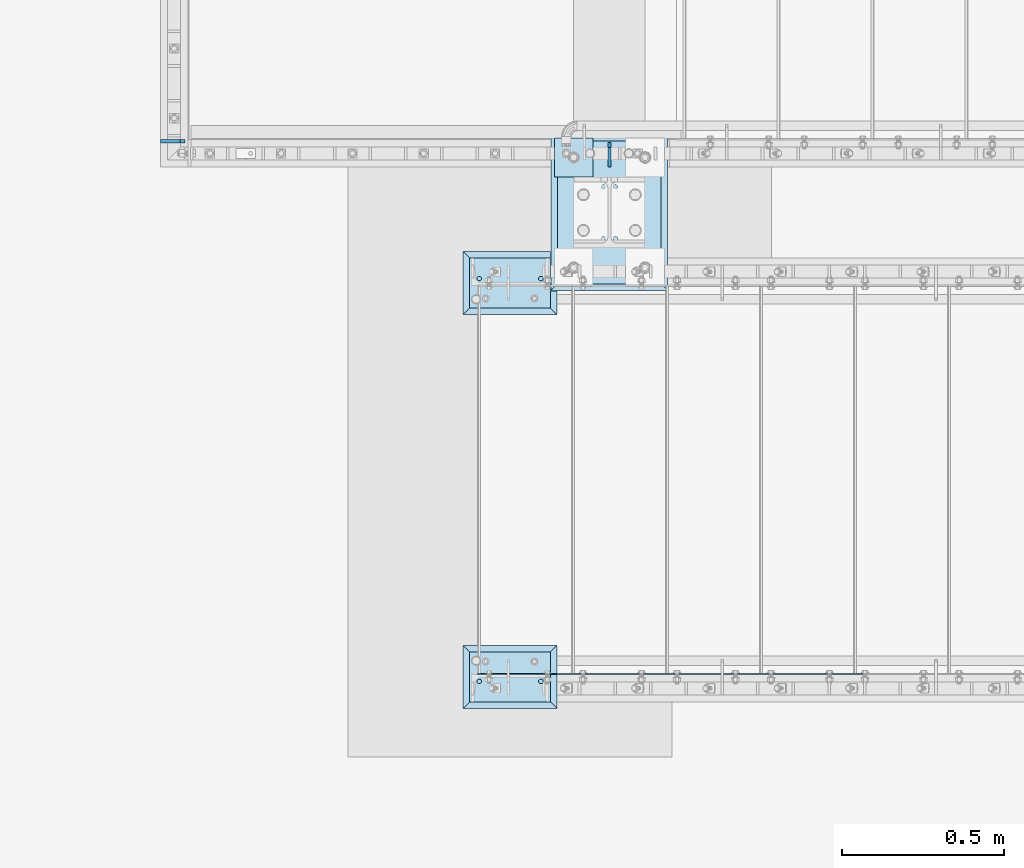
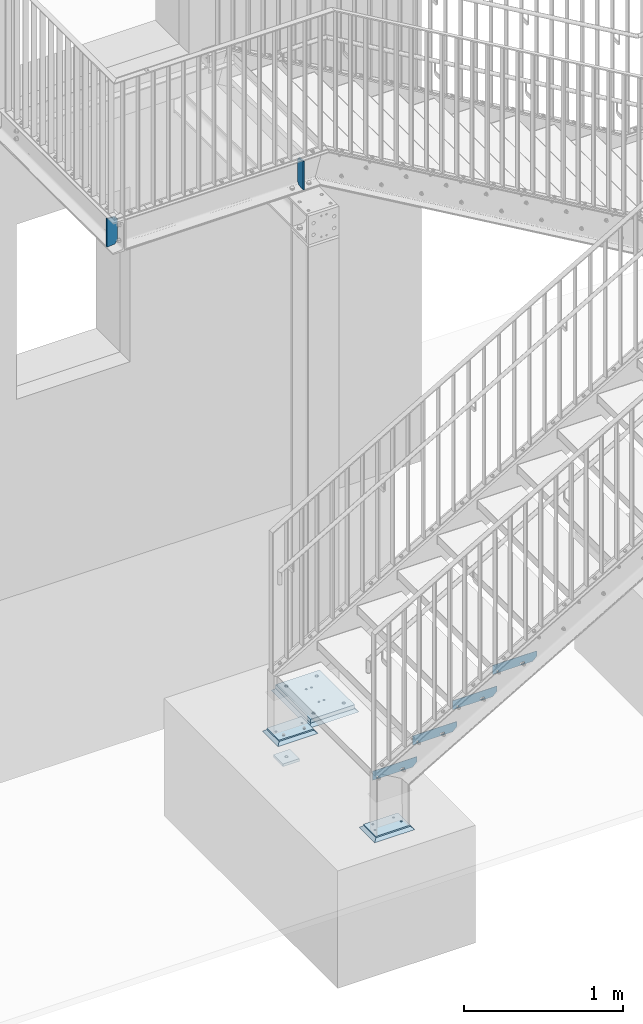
# One storey, part 19 of 145: 13 plates, 54 openings.
"""IFC2X3 building model written with IfcOpenShell, lengths in millimetres."""

from ifc_helpers import new_model, entity, si_unit, converted_unit, point, frame, frame_2d, origin, origin_with_axes, origin_2d_with_axis, place, context, project, spatial, polyline, circle_curve, line_curve, trimmed, segment, composite_curve, circle, outline, extrude, material, layer, layer_set, element, save


model = new_model("IFC2X3")

# Units and contexts
model_context = context("Model", 3, precision=1e-09, world=origin_with_axes())
ifc_project = project(units=[si_unit("LENGTHUNIT", "METRE", prefix="MILLI"), si_unit("AREAUNIT", "SQUARE_METRE"), si_unit("VOLUMEUNIT", "CUBIC_METRE"), converted_unit("PLANEANGLEUNIT", "DEGREE", entity("IfcPlaneAngleMeasure", 0.01745329), si_unit("PLANEANGLEUNIT", "RADIAN"), dimensions=[0, 0, 0, 0, 0, 0, 0])], contexts=[model_context])

# Site, building, storey
site_placement = place(None, origin_with_axes())
site = spatial("IfcSite", under=ifc_project, at=site_placement, Name="BZ1 Grund- und Mittelschule 85716 Unterschlei?heim", CompositionType="ELEMENT")
building_placement = place(site_placement, origin_with_axes())
building = spatial("IfcBuilding", under=site, at=building_placement, Name="Struktur 1", CompositionType="ELEMENT")
storey_placement = place(building_placement, origin_with_axes())
storey = spatial("IfcBuildingStorey", under=building, at=storey_placement, Name="Default Storey", CompositionType="ELEMENT", Elevation=0.0)

# Plate, openings
ifc_material = material(Name="S235JR")
ifc_layer_1 = layer(ifc_material, 20.0)
ifc_layer_set_1 = layer_set([ifc_layer_1], Name="S235JR")
plate_1_placement = place(None, frame((16764.545399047, -3127.502, -760.0), z_axis=(0.0, 0.0, 1.0), x_axis=(-1.0, 0.0, 0.0)))
plate_1 = element("IfcPlate", 1, at=plate_1_placement, inside=storey, material=ifc_layer_set_1, Name="-", ObjectType="-", context=model_context, shape_type="SweptSolid", body=[
    extrude(outline(polyline([(-145.0, -97.5), (145.0, -97.5), (145.0, 97.5), (-145.0, 97.5), (-145.0, -97.5)])), origin_with_axes(), (0.0, 0.0, 1.0), 20.0),
])
opening_1_placement = place(plate_1_placement, frame((-145.0, -97.501, 20.0), z_axis=(0.0, 1.0, 0.0), x_axis=(1.0, 0.0, 0.0)))
element("IfcOpeningElement", 2, at=opening_1_placement, cuts=plate_1, ObjectType="Opening", context=model_context, shape_type="SweptSolid", body=[
    extrude(outline(polyline([(0.0, 0.0), (20.0, 0.0), (0.0, 20.0), (0.0, 0.0)])), origin(), (0.0, 0.0, 1.0), 195.022),
])
opening_2_placement = place(plate_1_placement, frame((145.001, -97.5, 20.0), z_axis=(-1.0, 0.0, 0.0), x_axis=(0.0, 1.0, 0.0)))
element("IfcOpeningElement", 3, at=opening_2_placement, cuts=plate_1, ObjectType="Opening", context=model_context, shape_type="SweptSolid", body=[
    extrude(outline(polyline([(0.0, 0.0), (20.0, 0.0), (0.0, 20.0), (0.0, 0.0)])), origin(), (0.0, 0.0, 1.0), 290.022),
])
opening_3_placement = place(plate_1_placement, frame((145.0, 97.501, 20.0), z_axis=(0.0, -1.0, 0.0), x_axis=(-1.0, 0.0, 0.0)))
element("IfcOpeningElement", 4, at=opening_3_placement, cuts=plate_1, ObjectType="Opening", context=model_context, shape_type="SweptSolid", body=[
    extrude(outline(polyline([(0.0, 0.0), (20.0, 0.0), (0.0, 20.0), (0.0, 0.0)])), origin(), (0.0, 0.0, 1.0), 195.022),
])
opening_4_placement = place(plate_1_placement, frame((-145.001, 97.5, 20.0), z_axis=(1.0, 0.0, 0.0), x_axis=(0.0, -1.0, 0.0)))
element("IfcOpeningElement", 5, at=opening_4_placement, cuts=plate_1, ObjectType="Opening", context=model_context, shape_type="SweptSolid", body=[
    extrude(outline(polyline([(0.0, 0.0), (20.0, 0.0), (0.0, 20.0), (0.0, 0.0)])), origin(), (0.0, 0.0, 1.0), 290.022),
])
opening_5_placement = place(plate_1_placement, frame((140.0, 27.5, -0.5), z_axis=(0.0, 0.0, 1.0), x_axis=(1.0, 0.0, 0.0)))
element("IfcOpeningElement", 6, at=opening_5_placement, cuts=plate_1, ObjectType="Opening", context=model_context, shape_type="SweptSolid", body=[
    extrude(circle(Radius=7.001, at=frame_2d((-65.0, -75.0), x_axis=(1.0, 0.0))), origin(), (0.0, 0.0, 1.0), 21.0),
])
opening_6_placement = place(plate_1_placement, frame((-80.0, 27.5, -0.5), z_axis=(0.0, 0.0, 1.0), x_axis=(1.0, 0.0, 0.0)))
element("IfcOpeningElement", 7, at=opening_6_placement, cuts=plate_1, ObjectType="Opening", context=model_context, shape_type="SweptSolid", body=[
    extrude(circle(Radius=7.001, at=frame_2d((5.0, -75.0), x_axis=(1.0, 0.0))), origin(), (0.0, 0.0, 1.0), 21.0),
])

plate_2_placement = place(None, frame((16764.545399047, -1912.502, -760.0), z_axis=(0.0, 0.0, -1.0), x_axis=(-1.0, 0.0, 0.0)))
plate_2 = element("IfcPlate", 8, at=plate_2_placement, inside=storey, material=ifc_layer_set_1, Name="-", ObjectType="-", context=model_context, shape_type="SweptSolid", body=[
    extrude(outline(polyline([(-145.0, -97.5), (145.0, -97.5), (145.0, 97.5), (-145.0, 97.5), (-145.0, -97.5)])), origin_with_axes(), (0.0, 0.0, -1.0), 20.0),
])
opening_7_placement = place(plate_2_placement, frame((-145.0, 97.501, -20.0), z_axis=(0.0, -1.0, 0.0), x_axis=(1.0, 0.0, 0.0)))
element("IfcOpeningElement", 9, at=opening_7_placement, cuts=plate_2, ObjectType="Opening", context=model_context, shape_type="SweptSolid", body=[
    extrude(outline(polyline([(0.0, 0.0), (20.0, 0.0), (0.0, 20.0), (0.0, 0.0)])), origin(), (0.0, 0.0, 1.0), 195.022),
])
opening_8_placement = place(plate_2_placement, frame((-145.001, -97.5, -20.0), z_axis=(1.0, 0.0, 0.0), x_axis=(0.0, 1.0, 0.0)))
element("IfcOpeningElement", 10, at=opening_8_placement, cuts=plate_2, ObjectType="Opening", context=model_context, shape_type="SweptSolid", body=[
    extrude(outline(polyline([(0.0, 0.0), (20.0, 0.0), (0.0, 20.0), (0.0, 0.0)])), origin(), (0.0, 0.0, 1.0), 290.022),
])
opening_9_placement = place(plate_2_placement, frame((145.0, -97.501, -20.0), z_axis=(0.0, 1.0, 0.0), x_axis=(-1.0, 0.0, 0.0)))
element("IfcOpeningElement", 11, at=opening_9_placement, cuts=plate_2, ObjectType="Opening", context=model_context, shape_type="SweptSolid", body=[
    extrude(outline(polyline([(0.0, 0.0), (20.0, 0.0), (0.0, 20.0), (0.0, 0.0)])), origin(), (0.0, 0.0, 1.0), 195.022),
])
opening_10_placement = place(plate_2_placement, frame((145.001, 97.5, -20.0), z_axis=(-1.0, 0.0, 0.0), x_axis=(0.0, -1.0, 0.0)))
element("IfcOpeningElement", 12, at=opening_10_placement, cuts=plate_2, ObjectType="Opening", context=model_context, shape_type="SweptSolid", body=[
    extrude(outline(polyline([(0.0, 0.0), (20.0, 0.0), (0.0, 20.0), (0.0, 0.0)])), origin(), (0.0, 0.0, 1.0), 290.022),
])
opening_11_placement = place(plate_2_placement, frame((67.999, -47.5, 0.5), z_axis=(0.0, 0.0, 1.0), x_axis=(1.0, 0.0, 0.0)))
element("IfcOpeningElement", 13, at=opening_11_placement, cuts=plate_2, ObjectType="Opening", context=model_context, shape_type="SweptSolid", body=[
    extrude(circle(Radius=7.001, at=frame_2d((7.001, 0.0), x_axis=(1.0, 0.0))), origin(), (0.0, 0.0, -1.0), 21.0),
])
opening_12_placement = place(plate_2_placement, frame((-82.001, -47.5, 0.5), z_axis=(0.0, 0.0, 1.0), x_axis=(1.0, 0.0, 0.0)))
element("IfcOpeningElement", 14, at=opening_12_placement, cuts=plate_2, ObjectType="Opening", context=model_context, shape_type="SweptSolid", body=[
    extrude(circle(Radius=7.001, at=frame_2d((7.001, 0.0), x_axis=(1.0, 0.0))), origin(), (0.0, 0.0, -1.0), 21.0),
])
opening_13_placement = place(plate_2_placement, frame((-164.441948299, -24.501, -20.1), z_axis=(0.0, 0.0, -1.0), x_axis=(0.0, 1.0, 0.0)))
element("IfcOpeningElement", 15, at=opening_13_placement, cuts=plate_2, ObjectType="Opening", context=model_context, shape_type="SweptSolid", body=[
    extrude(outline(polyline([(0.0, 0.0), (173.338814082, 0.0), (173.338814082, 39.442948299), (0.0, 39.442948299), (0.0, 0.0)])), origin(), (0.0, 0.0, -1.0), 20.2),
])

ifc_layer_2 = layer(ifc_material, 10.0)
ifc_layer_set_2 = layer_set([ifc_layer_2], Name="S235JR")
plate_3_placement = place(None, frame((17075.84472732, -1554.502, 3071.144734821), z_axis=(1.0, 0.0, 0.0), x_axis=(0.0, 0.996815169, 0.079746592)))
plate_3 = element("IfcPlate", 16, at=plate_3_placement, inside=storey, material=ifc_layer_set_2, Name="Stiffener#1", ObjectType="Stiffener#1", context=model_context, shape_type="SweptSolid", body=[
    extrude(outline(polyline([(0.0, 0.0), (75.239625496, 0.0), (91.644322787, 205.05517107), (17.361672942, 217.017159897), (0.0, 0.0)])), origin_with_axes(), (0.0, 0.0, -1.0), 10.0),
])
opening_14_placement = place(plate_3_placement, frame((91.644322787, 205.05517107, 0.01), z_axis=(0.0, 0.0, 1.0), x_axis=(-0.987280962, 0.158985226, 0.0)))
element("IfcOpeningElement", 17, at=opening_14_placement, cuts=plate_3, ObjectType="Opening", context=model_context, shape_type="SweptSolid", body=[
    extrude(outline(composite_curve([segment(trimmed(line_curve((0.0, 0.0), (1.0, 0.0), 15.0), [point((0.0, 0.0))], [point((15.0, 0.0))], True, "CARTESIAN"), True, "CONTINUOUS"), segment(trimmed(circle_curve(origin_2d_with_axis(), 15.0), [point((15.0, 0.0))], [point((-1.196198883, 14.952227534))], True, "CARTESIAN"), True, "CONTINUOUS"), segment(trimmed(line_curve((-1.196198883, 14.952227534), (0.079746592, -0.996815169), 15.0), [point((-1.196198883, 14.952227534))], [point((0.0, 0.0))], True, "CARTESIAN"), True, "CONTINUOUS")], self_intersect=False)), origin(), (0.0, 0.0, -1.0), 10.02),
])
opening_15_placement = place(plate_3_placement, frame((75.239625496, 0.0, 0.01), z_axis=(0.0, 0.0, 1.0), x_axis=(0.079746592, 0.996815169, 0.0)))
element("IfcOpeningElement", 18, at=opening_15_placement, cuts=plate_3, ObjectType="Opening", context=model_context, shape_type="SweptSolid", body=[
    extrude(outline(composite_curve([segment(trimmed(line_curve((0.0, 0.0), (1.0, 0.0), 15.0), [point((0.0, 0.0))], [point((15.0, 0.0))], True, "CARTESIAN"), True, "CONTINUOUS"), segment(trimmed(circle_curve(origin_2d_with_axis(), 15.0), [point((15.0, 0.0))], [point((-1.196198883, 14.952227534))], True, "CARTESIAN"), True, "CONTINUOUS"), segment(trimmed(line_curve((-1.196198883, 14.952227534), (0.079746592, -0.996815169), 15.0), [point((-1.196198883, 14.952227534))], [point((0.0, 0.0))], True, "CARTESIAN"), True, "CONTINUOUS")], self_intersect=False)), origin(), (0.0, 0.0, -1.0), 10.02),
])

ifc_layer_3 = layer(ifc_material, 30.0)
ifc_layer_set_3 = layer_set([ifc_layer_3], Name="S235JR")
plate_4_placement = place(None, frame((17070.84472732, -1695.002, -740.0), z_axis=(0.0, 0.0, 1.0), x_axis=(-1.0, 0.0, 0.0)))
plate_4 = element("IfcPlate", 19, at=plate_4_placement, inside=storey, material=ifc_layer_set_3, Name="-", ObjectType="-", context=model_context, shape_type="SweptSolid", body=[
    extrude(outline(polyline([(-160.0, -220.0), (160.0, -220.0), (160.0, 220.0), (-160.0, 220.0), (-160.0, -220.0)])), origin_with_axes(), (0.0, 0.0, 1.0), 30.0),
])
opening_16_placement = place(plate_4_placement, frame((0.0, 0.0, -0.5), z_axis=(0.0, 0.0, 1.0), x_axis=(1.0, 0.0, 0.0)))
element("IfcOpeningElement", 20, at=opening_16_placement, cuts=plate_4, ObjectType="Opening", context=model_context, shape_type="SweptSolid", body=[
    extrude(circle(Radius=11.501, at=frame_2d((110.0, 170.0), x_axis=(1.0, 0.0))), origin(), (0.0, 0.0, 1.0), 31.0),
])
opening_17_placement = place(plate_4_placement, frame((0.0, 0.0, -0.5), z_axis=(0.0, 0.0, 1.0), x_axis=(1.0, 0.0, 0.0)))
element("IfcOpeningElement", 21, at=opening_17_placement, cuts=plate_4, ObjectType="Opening", context=model_context, shape_type="SweptSolid", body=[
    extrude(circle(Radius=11.501, at=frame_2d((-110.0, 170.0), x_axis=(1.0, 0.0))), origin(), (0.0, 0.0, 1.0), 31.0),
])
opening_18_placement = place(plate_4_placement, frame((0.0, 0.0, -0.5), z_axis=(0.0, 0.0, 1.0), x_axis=(1.0, 0.0, 0.0)))
element("IfcOpeningElement", 22, at=opening_18_placement, cuts=plate_4, ObjectType="Opening", context=model_context, shape_type="SweptSolid", body=[
    extrude(circle(Radius=11.501, at=frame_2d((110.0, -170.0), x_axis=(1.0, 0.0))), origin(), (0.0, 0.0, 1.0), 31.0),
])
opening_19_placement = place(plate_4_placement, frame((0.0, 0.0, -0.5), z_axis=(0.0, 0.0, 1.0), x_axis=(1.0, 0.0, 0.0)))
element("IfcOpeningElement", 23, at=opening_19_placement, cuts=plate_4, ObjectType="Opening", context=model_context, shape_type="SweptSolid", body=[
    extrude(circle(Radius=11.501, at=frame_2d((-110.0, -170.0), x_axis=(1.0, 0.0))), origin(), (0.0, 0.0, 1.0), 31.0),
])
opening_20_placement = place(plate_4_placement, frame((-22.75, -76.0, -0.5), z_axis=(0.0, 0.0, 1.0), x_axis=(0.0, 1.0, 0.0)))
element("IfcOpeningElement", 24, at=opening_20_placement, cuts=plate_4, ObjectType="Opening", context=model_context, shape_type="SweptSolid", body=[
    extrude(circle(Radius=7.001, at=frame_2d((-4.0, -4.0), x_axis=(1.0, 0.0))), origin(), (0.0, 0.0, 1.0), 31.0),
])
opening_21_placement = place(plate_4_placement, frame((-22.75, 76.0, -0.5), z_axis=(0.0, 0.0, 1.0), x_axis=(0.0, 1.0, 0.0)))
element("IfcOpeningElement", 25, at=opening_21_placement, cuts=plate_4, ObjectType="Opening", context=model_context, shape_type="SweptSolid", body=[
    extrude(circle(Radius=7.001, at=frame_2d((4.0, -4.0), x_axis=(1.0, 0.0))), origin(), (0.0, 0.0, 1.0), 31.0),
])
opening_22_placement = place(plate_4_placement, frame((22.75, 76.0, -0.5), z_axis=(0.0, 0.0, 1.0), x_axis=(0.0, 1.0, 0.0)))
element("IfcOpeningElement", 26, at=opening_22_placement, cuts=plate_4, ObjectType="Opening", context=model_context, shape_type="SweptSolid", body=[
    extrude(circle(Radius=7.001, at=frame_2d((4.0, 4.0), x_axis=(1.0, 0.0))), origin(), (0.0, 0.0, 1.0), 31.0),
])
opening_23_placement = place(plate_4_placement, frame((22.75, -76.0, -0.5), z_axis=(0.0, 0.0, 1.0), x_axis=(0.0, 1.0, 0.0)))
element("IfcOpeningElement", 27, at=opening_23_placement, cuts=plate_4, ObjectType="Opening", context=model_context, shape_type="SweptSolid", body=[
    extrude(circle(Radius=7.001, at=frame_2d((-4.0, 4.0), x_axis=(1.0, 0.0))), origin(), (0.0, 0.0, 1.0), 31.0),
])

# Plate, opening
plate_5_placement = place(None, frame((16960.844727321, -1525.002, -1270.0), z_axis=(0.0, 0.0, 1.0), x_axis=(-1.0, 0.0, 0.0)))
plate_5 = element("IfcPlate", 28, at=plate_5_placement, inside=storey, material=ifc_layer_set_1, Name="-", ObjectType="-", context=model_context, shape_type="SweptSolid", body=[
    extrude(outline(polyline([(-60.0, -60.0), (60.0, -60.0), (60.0, 60.0), (-60.0, 60.0), (-60.0, -60.0)])), origin_with_axes(), (0.0, 0.0, 1.0), 20.0),
])
opening_24_placement = place(plate_5_placement, frame((0.0, 0.0, -0.5), z_axis=(0.0, 0.0, 1.0), x_axis=(1.0, 0.0, 0.0)))
element("IfcOpeningElement", 29, at=opening_24_placement, cuts=plate_5, ObjectType="Opening", context=model_context, shape_type="SweptSolid", body=[
    extrude(circle(Radius=11.001, at=origin_2d_with_axis()), origin(), (0.0, 0.0, 1.0), 21.0),
])

# Plate, openings
plate_6_placement = place(None, frame((17070.84472732, -1695.002, -760.0), z_axis=(0.0, 0.0, 1.0), x_axis=(-1.0, 0.0, 0.0)))
plate_6 = element("IfcPlate", 30, at=plate_6_placement, inside=storey, material=ifc_layer_set_1, Name="-", ObjectType="-", context=model_context, shape_type="SweptSolid", body=[
    extrude(outline(polyline([(-180.0, -240.0), (180.0, -240.0), (180.0, 240.0), (-180.0, 240.0), (-180.0, -240.0)])), origin_with_axes(), (0.0, 0.0, 1.0), 20.0),
])
opening_25_placement = place(plate_6_placement, frame((0.0, 0.0, -0.5), z_axis=(0.0, 0.0, 1.0), x_axis=(1.0, 0.0, 0.0)))
element("IfcOpeningElement", 31, at=opening_25_placement, cuts=plate_6, ObjectType="Opening", context=model_context, shape_type="SweptSolid", body=[
    extrude(circle(Radius=11.501, at=frame_2d((110.0, 170.0), x_axis=(1.0, 0.0))), origin(), (0.0, 0.0, 1.0), 21.0),
])
opening_26_placement = place(plate_6_placement, frame((0.0, 0.0, -0.5), z_axis=(0.0, 0.0, 1.0), x_axis=(1.0, 0.0, 0.0)))
element("IfcOpeningElement", 32, at=opening_26_placement, cuts=plate_6, ObjectType="Opening", context=model_context, shape_type="SweptSolid", body=[
    extrude(circle(Radius=11.501, at=frame_2d((-110.0, 170.0), x_axis=(1.0, 0.0))), origin(), (0.0, 0.0, 1.0), 21.0),
])
opening_27_placement = place(plate_6_placement, frame((0.0, 0.0, -0.5), z_axis=(0.0, 0.0, 1.0), x_axis=(1.0, 0.0, 0.0)))
element("IfcOpeningElement", 33, at=opening_27_placement, cuts=plate_6, ObjectType="Opening", context=model_context, shape_type="SweptSolid", body=[
    extrude(circle(Radius=11.501, at=frame_2d((110.0, -170.0), x_axis=(1.0, 0.0))), origin(), (0.0, 0.0, 1.0), 21.0),
])
opening_28_placement = place(plate_6_placement, frame((0.0, 0.0, -0.5), z_axis=(0.0, 0.0, 1.0), x_axis=(1.0, 0.0, 0.0)))
element("IfcOpeningElement", 34, at=opening_28_placement, cuts=plate_6, ObjectType="Opening", context=model_context, shape_type="SweptSolid", body=[
    extrude(circle(Radius=11.501, at=frame_2d((-110.0, -170.0), x_axis=(1.0, 0.0))), origin(), (0.0, 0.0, 1.0), 21.0),
])
opening_29_placement = place(plate_6_placement, frame((-180.0, -240.001, 20.0), z_axis=(0.0, 1.0, 0.0), x_axis=(1.0, 0.0, 0.0)))
element("IfcOpeningElement", 35, at=opening_29_placement, cuts=plate_6, ObjectType="Opening", context=model_context, shape_type="SweptSolid", body=[
    extrude(outline(polyline([(0.0, 0.0), (20.0, 0.0), (0.0, 20.0), (0.0, 0.0)])), origin(), (0.0, 0.0, 1.0), 480.022),
])
opening_30_placement = place(plate_6_placement, frame((180.001, -240.0, 20.0), z_axis=(-1.0, 0.0, 0.0), x_axis=(0.0, 1.0, 0.0)))
element("IfcOpeningElement", 36, at=opening_30_placement, cuts=plate_6, ObjectType="Opening", context=model_context, shape_type="SweptSolid", body=[
    extrude(outline(polyline([(0.0, 0.0), (20.0, 0.0), (0.0, 20.0), (0.0, 0.0)])), origin(), (0.0, 0.0, 1.0), 360.022),
])
opening_31_placement = place(plate_6_placement, frame((180.0, 240.001, 20.0), z_axis=(0.0, -1.0, 0.0), x_axis=(-1.0, 0.0, 0.0)))
element("IfcOpeningElement", 37, at=opening_31_placement, cuts=plate_6, ObjectType="Opening", context=model_context, shape_type="SweptSolid", body=[
    extrude(outline(polyline([(0.0, 0.0), (20.0, 0.0), (0.0, 20.0), (0.0, 0.0)])), origin(), (0.0, 0.0, 1.0), 480.022),
])
opening_32_placement = place(plate_6_placement, frame((-180.001, 240.0, 20.0), z_axis=(1.0, 0.0, 0.0), x_axis=(0.0, -1.0, 0.0)))
element("IfcOpeningElement", 38, at=opening_32_placement, cuts=plate_6, ObjectType="Opening", context=model_context, shape_type="SweptSolid", body=[
    extrude(outline(polyline([(0.0, 0.0), (20.0, 0.0), (0.0, 20.0), (0.0, 0.0)])), origin(), (0.0, 0.0, 1.0), 360.022),
])

ifc_layer_4 = layer(ifc_material, 3.0)
ifc_layer_set_4 = layer_set([ifc_layer_4], Name="S235JR")
plate_7_placement = place(None, frame((17114.545399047, -3117.002, -157.727271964), z_axis=(0.0, -1.0, 0.0), x_axis=(0.0, 0.0, -1.0)))
plate_7 = element("IfcPlate", 39, at=plate_7_placement, inside=storey, material=ifc_layer_set_4, Name="-", ObjectType="-", context=model_context, shape_type="SweptSolid", body=[
    extrude(outline(polyline([(-35.0, -160.0), (35.0, -160.0), (35.0, 160.0), (-35.0, 160.0), (-35.0, -160.0)])), origin_with_axes(), (0.0, 0.0, 1.0), 3.0),
])
opening_33_placement = place(plate_7_placement, frame((0.0, 7.5, -0.001), z_axis=(0.0, 0.0, 1.0), x_axis=(1.0, 0.0, 0.0)))
element("IfcOpeningElement", 40, at=opening_33_placement, cuts=plate_7, ObjectType="Opening", context=model_context, shape_type="SweptSolid", body=[
    extrude(outline(polyline([(5.0, 152.5), (35.0, 122.5), (35.0, 152.5), (5.0, 152.5)])), origin(), (0.0, 0.0, 1.0), 3.002),
])
opening_34_placement = place(plate_7_placement, frame((20.0, -125.0, 3.5), z_axis=(0.0, 0.0, -1.0), x_axis=(-1.0, 0.0, 0.0)))
element("IfcOpeningElement", 41, at=opening_34_placement, cuts=plate_7, ObjectType="Opening", context=model_context, shape_type="SweptSolid", body=[
    extrude(circle(Radius=6.501, at=origin_2d_with_axis()), origin(), (0.0, 0.0, 1.0), 4.0),
])
opening_35_placement = place(plate_7_placement, frame((20.0, 55.0, 3.5), z_axis=(0.0, 0.0, -1.0), x_axis=(-1.0, 0.0, 0.0)))
element("IfcOpeningElement", 42, at=opening_35_placement, cuts=plate_7, ObjectType="Opening", context=model_context, shape_type="SweptSolid", body=[
    extrude(outline(composite_curve([segment(trimmed(line_curve((6.501, -9.5), (0.0, 1.0), 19.0), [point((6.501, -9.5))], [point((6.501, 9.5))], True, "CARTESIAN"), True, "CONTINUOUS"), segment(trimmed(circle_curve(frame_2d((0.0, 9.5), x_axis=(1.0, 0.0)), 6.501), [point((6.501, 9.5))], [point((-6.501, 9.5))], True, "CARTESIAN"), True, "CONTINUOUS"), segment(trimmed(line_curve((-6.501, 9.5), (0.0, -1.0), 19.0), [point((-6.501, 9.5))], [point((-6.501, -9.5))], True, "CARTESIAN"), True, "CONTINUOUS"), segment(trimmed(circle_curve(frame_2d((0.0, -9.5), x_axis=(1.0, 0.0)), 6.501), [point((-6.501, -9.5))], [point((6.501, -9.5))], True, "CARTESIAN"), True, "CONTINUOUS")], self_intersect=False)), origin(), (0.0, 0.0, 1.0), 4.0),
])

plate_8_placement = place(None, frame((16824.545399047, -3117.002, -326.3636356), z_axis=(0.0, -1.0, 0.0), x_axis=(0.0, 0.0, -1.0)))
plate_8 = element("IfcPlate", 43, at=plate_8_placement, inside=storey, material=ifc_layer_set_4, Name="-", ObjectType="-", context=model_context, shape_type="SweptSolid", body=[
    extrude(outline(polyline([(-35.0, -160.0), (35.0, -160.0), (35.0, 160.0), (-35.0, 160.0), (-35.0, -160.0)])), origin_with_axes(), (0.0, 0.0, 1.0), 3.0),
])
opening_36_placement = place(plate_8_placement, frame((0.0, 7.5, -0.001), z_axis=(0.0, 0.0, 1.0), x_axis=(1.0, 0.0, 0.0)))
element("IfcOpeningElement", 44, at=opening_36_placement, cuts=plate_8, ObjectType="Opening", context=model_context, shape_type="SweptSolid", body=[
    extrude(outline(polyline([(5.0, 152.5), (35.0, 122.5), (35.0, 152.5), (5.0, 152.5)])), origin(), (0.0, 0.0, 1.0), 3.002),
])
opening_37_placement = place(plate_8_placement, frame((20.0, -125.0, 3.5), z_axis=(0.0, 0.0, -1.0), x_axis=(-1.0, 0.0, 0.0)))
element("IfcOpeningElement", 45, at=opening_37_placement, cuts=plate_8, ObjectType="Opening", context=model_context, shape_type="SweptSolid", body=[
    extrude(circle(Radius=6.501, at=origin_2d_with_axis()), origin(), (0.0, 0.0, 1.0), 4.0),
])
opening_38_placement = place(plate_8_placement, frame((20.0, 55.0, 3.5), z_axis=(0.0, 0.0, -1.0), x_axis=(-1.0, 0.0, 0.0)))
element("IfcOpeningElement", 46, at=opening_38_placement, cuts=plate_8, ObjectType="Opening", context=model_context, shape_type="SweptSolid", body=[
    extrude(outline(composite_curve([segment(trimmed(line_curve((6.501, -9.5), (0.0, 1.0), 19.0), [point((6.501, -9.5))], [point((6.501, 9.5))], True, "CARTESIAN"), True, "CONTINUOUS"), segment(trimmed(circle_curve(frame_2d((0.0, 9.5), x_axis=(1.0, 0.0)), 6.501), [point((6.501, 9.5))], [point((-6.501, 9.5))], True, "CARTESIAN"), True, "CONTINUOUS"), segment(trimmed(line_curve((-6.501, 9.5), (0.0, -1.0), 19.0), [point((-6.501, 9.5))], [point((-6.501, -9.5))], True, "CARTESIAN"), True, "CONTINUOUS"), segment(trimmed(circle_curve(frame_2d((0.0, -9.5), x_axis=(1.0, 0.0)), 6.501), [point((-6.501, -9.5))], [point((6.501, -9.5))], True, "CARTESIAN"), True, "CONTINUOUS")], self_intersect=False)), origin(), (0.0, 0.0, 1.0), 4.0),
])

plate_9_placement = place(None, frame((17404.545399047, -3117.002, 10.909091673), z_axis=(0.0, -1.0, 0.0), x_axis=(0.0, 0.0, -1.0)))
plate_9 = element("IfcPlate", 47, at=plate_9_placement, inside=storey, material=ifc_layer_set_4, Name="-", ObjectType="-", context=model_context, shape_type="SweptSolid", body=[
    extrude(outline(polyline([(-35.0, -160.0), (35.0, -160.0), (35.0, 160.0), (-35.0, 160.0), (-35.0, -160.0)])), origin_with_axes(), (0.0, 0.0, 1.0), 3.0),
])
opening_39_placement = place(plate_9_placement, frame((0.0, 7.5, -0.001), z_axis=(0.0, 0.0, 1.0), x_axis=(1.0, 0.0, 0.0)))
element("IfcOpeningElement", 48, at=opening_39_placement, cuts=plate_9, ObjectType="Opening", context=model_context, shape_type="SweptSolid", body=[
    extrude(outline(polyline([(5.0, 152.5), (35.0, 122.5), (35.0, 152.5), (5.0, 152.5)])), origin(), (0.0, 0.0, 1.0), 3.002),
])
opening_40_placement = place(plate_9_placement, frame((20.0, -125.0, 3.5), z_axis=(0.0, 0.0, -1.0), x_axis=(-1.0, 0.0, 0.0)))
element("IfcOpeningElement", 49, at=opening_40_placement, cuts=plate_9, ObjectType="Opening", context=model_context, shape_type="SweptSolid", body=[
    extrude(circle(Radius=6.501, at=origin_2d_with_axis()), origin(), (0.0, 0.0, 1.0), 4.0),
])
opening_41_placement = place(plate_9_placement, frame((20.0, 55.0, 3.5), z_axis=(0.0, 0.0, -1.0), x_axis=(-1.0, 0.0, 0.0)))
element("IfcOpeningElement", 50, at=opening_41_placement, cuts=plate_9, ObjectType="Opening", context=model_context, shape_type="SweptSolid", body=[
    extrude(outline(composite_curve([segment(trimmed(line_curve((6.501, -9.5), (0.0, 1.0), 19.0), [point((6.501, -9.5))], [point((6.501, 9.5))], True, "CARTESIAN"), True, "CONTINUOUS"), segment(trimmed(circle_curve(frame_2d((0.0, 9.5), x_axis=(1.0, 0.0)), 6.501), [point((6.501, 9.5))], [point((-6.501, 9.5))], True, "CARTESIAN"), True, "CONTINUOUS"), segment(trimmed(line_curve((-6.501, 9.5), (0.0, -1.0), 19.0), [point((-6.501, 9.5))], [point((-6.501, -9.5))], True, "CARTESIAN"), True, "CONTINUOUS"), segment(trimmed(circle_curve(frame_2d((0.0, -9.5), x_axis=(1.0, 0.0)), 6.501), [point((-6.501, -9.5))], [point((6.501, -9.5))], True, "CARTESIAN"), True, "CONTINUOUS")], self_intersect=False)), origin(), (0.0, 0.0, 1.0), 4.0),
])

plate_10_placement = place(None, frame((17694.545399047, -3117.002, 179.545455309), z_axis=(0.0, -1.0, 0.0), x_axis=(0.0, 0.0, -1.0)))
plate_10 = element("IfcPlate", 51, at=plate_10_placement, inside=storey, material=ifc_layer_set_4, Name="-", ObjectType="-", context=model_context, shape_type="SweptSolid", body=[
    extrude(outline(polyline([(-35.0, -160.0), (35.0, -160.0), (35.0, 160.0), (-35.0, 160.0), (-35.0, -160.0)])), origin_with_axes(), (0.0, 0.0, 1.0), 3.0),
])
opening_42_placement = place(plate_10_placement, frame((0.0, 7.5, -0.001), z_axis=(0.0, 0.0, 1.0), x_axis=(1.0, 0.0, 0.0)))
element("IfcOpeningElement", 52, at=opening_42_placement, cuts=plate_10, ObjectType="Opening", context=model_context, shape_type="SweptSolid", body=[
    extrude(outline(polyline([(5.0, 152.5), (35.0, 122.5), (35.0, 152.5), (5.0, 152.5)])), origin(), (0.0, 0.0, 1.0), 3.002),
])
opening_43_placement = place(plate_10_placement, frame((20.0, 55.0, 3.5), z_axis=(0.0, 0.0, -1.0), x_axis=(-1.0, 0.0, 0.0)))
element("IfcOpeningElement", 53, at=opening_43_placement, cuts=plate_10, ObjectType="Opening", context=model_context, shape_type="SweptSolid", body=[
    extrude(outline(composite_curve([segment(trimmed(line_curve((6.501, -9.5), (0.0, 1.0), 19.0), [point((6.501, -9.5))], [point((6.501, 9.5))], True, "CARTESIAN"), True, "CONTINUOUS"), segment(trimmed(circle_curve(frame_2d((0.0, 9.5), x_axis=(1.0, 0.0)), 6.501), [point((6.501, 9.5))], [point((-6.501, 9.5))], True, "CARTESIAN"), True, "CONTINUOUS"), segment(trimmed(line_curve((-6.501, 9.5), (0.0, -1.0), 19.0), [point((-6.501, 9.5))], [point((-6.501, -9.5))], True, "CARTESIAN"), True, "CONTINUOUS"), segment(trimmed(circle_curve(frame_2d((0.0, -9.5), x_axis=(1.0, 0.0)), 6.501), [point((-6.501, -9.5))], [point((6.501, -9.5))], True, "CARTESIAN"), True, "CONTINUOUS")], self_intersect=False)), origin(), (0.0, 0.0, 1.0), 4.0),
])
opening_44_placement = place(plate_10_placement, frame((20.0, -125.0, 3.5), z_axis=(0.0, 0.0, -1.0), x_axis=(-1.0, 0.0, 0.0)))
element("IfcOpeningElement", 54, at=opening_44_placement, cuts=plate_10, ObjectType="Opening", context=model_context, shape_type="SweptSolid", body=[
    extrude(circle(Radius=6.501, at=origin_2d_with_axis()), origin(), (0.0, 0.0, 1.0), 4.0),
])

plate_11_placement = place(None, frame((15686.34372732, -1470.002, 3071.144734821), z_axis=(0.0, -1.0, 0.0), x_axis=(0.996815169, 0.0, 0.079746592)))
plate_11 = element("IfcPlate", 55, at=plate_11_placement, inside=storey, material=ifc_layer_set_2, Name="Stiffener#1", ObjectType="Stiffener#1", context=model_context, shape_type="SweptSolid", body=[
    extrude(outline(polyline([(0.0, 0.0), (75.239625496, 0.0), (91.644322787, 205.05517107), (17.361672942, 217.017159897), (0.0, 0.0)])), origin_with_axes(), (0.0, 0.0, 1.0), 10.0),
])
opening_45_placement = place(plate_11_placement, frame((0.0, 0.0, -0.01), z_axis=(0.0, 0.0, 1.0), x_axis=(1.0, 0.0, 0.0)))
element("IfcOpeningElement", 56, at=opening_45_placement, cuts=plate_11, ObjectType="Opening", context=model_context, shape_type="SweptSolid", body=[
    extrude(outline(composite_curve([segment(trimmed(line_curve((91.644322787, 205.05517107), (-0.987280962, 0.158985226), 15.0), [point((91.644322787, 205.05517107))], [point((76.835108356, 207.439949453))], True, "CARTESIAN"), True, "CONTINUOUS"), segment(trimmed(circle_curve(frame_2d((91.644322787, 205.05517107), x_axis=(1.0, 0.0)), 15.0), [point((76.835108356, 207.439949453))], [point((90.448123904, 190.102943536))], True, "CARTESIAN"), True, "CONTINUOUS"), segment(trimmed(line_curve((90.448123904, 190.102943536), (0.079746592, 0.996815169), 15.0), [point((90.448123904, 190.102943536))], [point((91.644322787, 205.05517107))], True, "CARTESIAN"), True, "CONTINUOUS")], self_intersect=False)), origin(), (0.0, 0.0, 1.0), 10.02),
])
opening_46_placement = place(plate_11_placement, frame((0.0, 0.0, -0.01), z_axis=(0.0, 0.0, 1.0), x_axis=(1.0, 0.0, 0.0)))
element("IfcOpeningElement", 57, at=opening_46_placement, cuts=plate_11, ObjectType="Opening", context=model_context, shape_type="SweptSolid", body=[
    extrude(outline(composite_curve([segment(trimmed(line_curve((75.239625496, 0.0), (0.079746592, 0.996815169), 15.0), [point((75.239625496, 0.0))], [point((76.435824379, 14.952227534))], True, "CARTESIAN"), True, "CONTINUOUS"), segment(trimmed(circle_curve(frame_2d((75.239625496, 0.0), x_axis=(1.0, 0.0)), 15.0), [point((76.435824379, 14.952227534))], [point((60.239625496, 0.0))], True, "CARTESIAN"), True, "CONTINUOUS"), segment(trimmed(line_curve((60.239625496, 0.0), (1.0, 0.0), 15.0), [point((60.239625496, 0.0))], [point((75.239625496, 0.0))], True, "CARTESIAN"), True, "CONTINUOUS")], self_intersect=False)), origin(), (0.0, 0.0, 1.0), 10.02),
])

plate_12_placement = place(None, frame((16764.545399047, -3127.502, -730.0), z_axis=(0.0, 0.0, -1.0), x_axis=(0.0, 1.0, 0.0)))
plate_12 = element("IfcPlate", 58, at=plate_12_placement, inside=storey, material=ifc_layer_set_2, Name="-", ObjectType="-", context=model_context, shape_type="SweptSolid", body=[
    extrude(outline(polyline([(-77.5, -125.0), (77.5, -125.0), (77.5, 125.0), (-77.5, 125.0), (-77.5, -125.0)])), origin_with_axes(), (0.0, 0.0, 1.0), 10.0),
])
opening_47_placement = place(plate_12_placement, frame((-14.0, -95.0, 10.5), z_axis=(0.0, 0.0, -1.0), x_axis=(0.0, 1.0, 0.0)))
element("IfcOpeningElement", 59, at=opening_47_placement, cuts=plate_12, ObjectType="Opening", context=model_context, shape_type="SweptSolid", body=[
    extrude(circle(Radius=7.001, at=origin_2d_with_axis()), origin(), (0.0, 0.0, 1.0), 11.0),
])
opening_48_placement = place(plate_12_placement, frame((-14.0, 95.0, 10.5), z_axis=(0.0, 0.0, -1.0), x_axis=(0.0, 1.0, 0.0)))
element("IfcOpeningElement", 60, at=opening_48_placement, cuts=plate_12, ObjectType="Opening", context=model_context, shape_type="SweptSolid", body=[
    extrude(circle(Radius=7.001, at=origin_2d_with_axis()), origin(), (0.0, 0.0, 1.0), 11.0),
])
opening_49_placement = place(plate_12_placement, frame((47.5, 0.0, 10.5), z_axis=(0.0, 0.0, -1.0), x_axis=(0.0, -1.0, 0.0)))
element("IfcOpeningElement", 61, at=opening_49_placement, cuts=plate_12, ObjectType="Opening", context=model_context, shape_type="SweptSolid", body=[
    extrude(circle(Radius=7.001, at=frame_2d((75.0, 0.0), x_axis=(1.0, 0.0))), origin(), (0.0, 0.0, 1.0), 11.0),
])
opening_50_placement = place(plate_12_placement, frame((47.5, 0.0, 10.5), z_axis=(0.0, 0.0, -1.0), x_axis=(0.0, -1.0, 0.0)))
element("IfcOpeningElement", 62, at=opening_50_placement, cuts=plate_12, ObjectType="Opening", context=model_context, shape_type="SweptSolid", body=[
    extrude(circle(Radius=7.001, at=frame_2d((-75.0, 0.0), x_axis=(1.0, 0.0))), origin(), (0.0, 0.0, 1.0), 11.0),
])

plate_13_placement = place(None, frame((16764.545399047, -1912.502, -730.0), z_axis=(0.0, 0.0, -1.0), x_axis=(0.0, 1.0, 0.0)))
plate_13 = element("IfcPlate", 63, at=plate_13_placement, inside=storey, material=ifc_layer_set_2, Name="-", ObjectType="-", context=model_context, shape_type="SweptSolid", body=[
    extrude(outline(polyline([(-77.5, -125.0), (77.5, -125.0), (77.5, 125.0), (-77.5, 125.0), (-77.5, -125.0)])), origin_with_axes(), (0.0, 0.0, 1.0), 10.0),
])
opening_51_placement = place(plate_13_placement, frame((14.0, -95.0, 10.5), z_axis=(0.0, 0.0, -1.0), x_axis=(0.0, 1.0, 0.0)))
element("IfcOpeningElement", 64, at=opening_51_placement, cuts=plate_13, ObjectType="Opening", context=model_context, shape_type="SweptSolid", body=[
    extrude(circle(Radius=7.001, at=origin_2d_with_axis()), origin(), (0.0, 0.0, 1.0), 11.0),
])
opening_52_placement = place(plate_13_placement, frame((14.0, 95.0, 10.5), z_axis=(0.0, 0.0, -1.0), x_axis=(0.0, 1.0, 0.0)))
element("IfcOpeningElement", 65, at=opening_52_placement, cuts=plate_13, ObjectType="Opening", context=model_context, shape_type="SweptSolid", body=[
    extrude(circle(Radius=7.001, at=origin_2d_with_axis()), origin(), (0.0, 0.0, 1.0), 11.0),
])
opening_53_placement = place(plate_13_placement, frame((-47.5, 0.0, 10.5), z_axis=(0.0, 0.0, -1.0), x_axis=(0.0, 1.0, 0.0)))
element("IfcOpeningElement", 66, at=opening_53_placement, cuts=plate_13, ObjectType="Opening", context=model_context, shape_type="SweptSolid", body=[
    extrude(circle(Radius=7.001, at=frame_2d((75.0, 0.0), x_axis=(1.0, 0.0))), origin(), (0.0, 0.0, 1.0), 11.0),
])
opening_54_placement = place(plate_13_placement, frame((-47.5, 0.0, 10.5), z_axis=(0.0, 0.0, -1.0), x_axis=(0.0, 1.0, 0.0)))
element("IfcOpeningElement", 67, at=opening_54_placement, cuts=plate_13, ObjectType="Opening", context=model_context, shape_type="SweptSolid", body=[
    extrude(circle(Radius=7.001, at=frame_2d((-75.0, 0.0), x_axis=(1.0, 0.0))), origin(), (0.0, 0.0, 1.0), 11.0),
])

save(model, "model.ifc")
